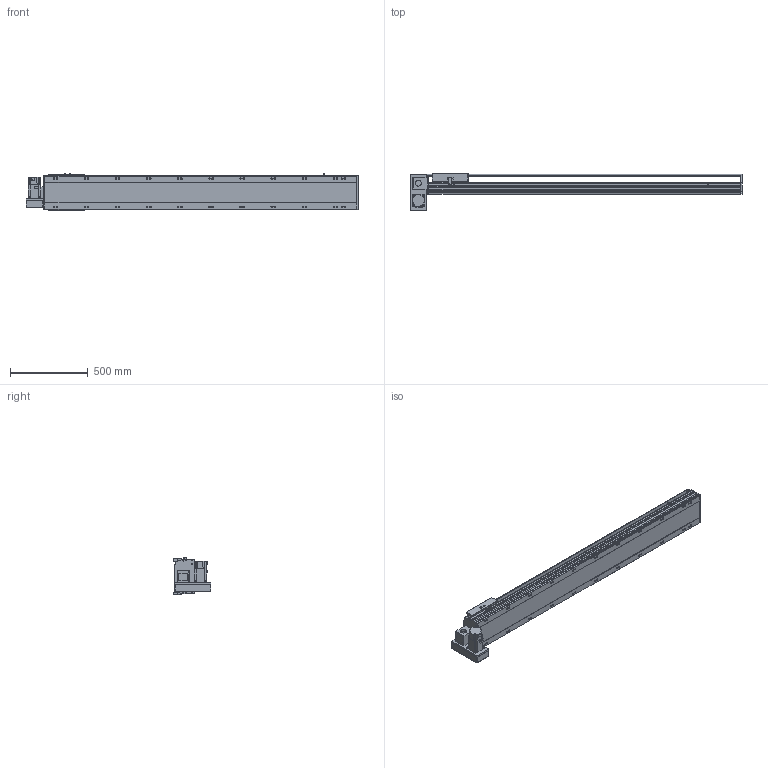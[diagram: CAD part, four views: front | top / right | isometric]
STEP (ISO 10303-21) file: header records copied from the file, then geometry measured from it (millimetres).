
FILE_DESCRIPTION(/* description */ ('STEP AP214'),/* implementation_level */ '2;1');
FILE_NAME(/* name */ 'PBS220-P40-S1650-LD-T75-C1-N(0)',/* time_stamp */ '2022-06-27T09:44:59+02:00',/* author */ ('License CC BY-ND 4.0'),/* organization */ ('CADENAS'),/* preprocessor_version */ 'ST-DEVELOPER v18.102',/* originating_system */ 'PARTsolutions',/* authorisation */ ' ');
FILE_SCHEMA (('AUTOMOTIVE_DESIGN {1 0 10303 214 3 1 1}'));
Length unit declared in the file: millimetre
Products named in the file (7): PBS220-P40-S1650-LD-T75-C1-N(0); PBS220_sensor; PBS220_plant; PBS220_sliser; T75-p1; PBS220T-LD_motors; PBS220-S1650()_body
Assembly tree (8 placements, depth 2):
  PBS220-P40-S1650-LD-T75-C1-N(0)
    PBS220_sensor  x3
    PBS220_plant
    PBS220_sliser
    T75-p1
    PBS220T-LD_motors
    PBS220-S1650()_body
Bounding box: 2134 x 239 x 238.5 mm (x, y, z)
Volume: 30205783.2 mm3; surface area: 2846956.3 mm2
Topology: 8 solids, 8 shells, 950 faces, 2480 edges, 1612 vertices
Faces by surface type: plane 610, cylinder 294, cone 46
Full cylindrical faces by diameter (mm): 2.013 x4, 4.5 x14, 4.917 x4, 6 x7, 6.647 x8, 8 x10, 8.376 x22, 8.5 x22, 10 x6, 14 x22, 38 x2, 40 x1, 70 x1
Entity records: 26564 total; most frequent: CARTESIAN_POINT 4690, DIRECTION 4617, ORIENTED_EDGE 4214, EDGE_CURVE 2107, AXIS2_PLACEMENT_3D 1633, VERTEX_POINT 1464, LINE 1351, VECTOR 1351
